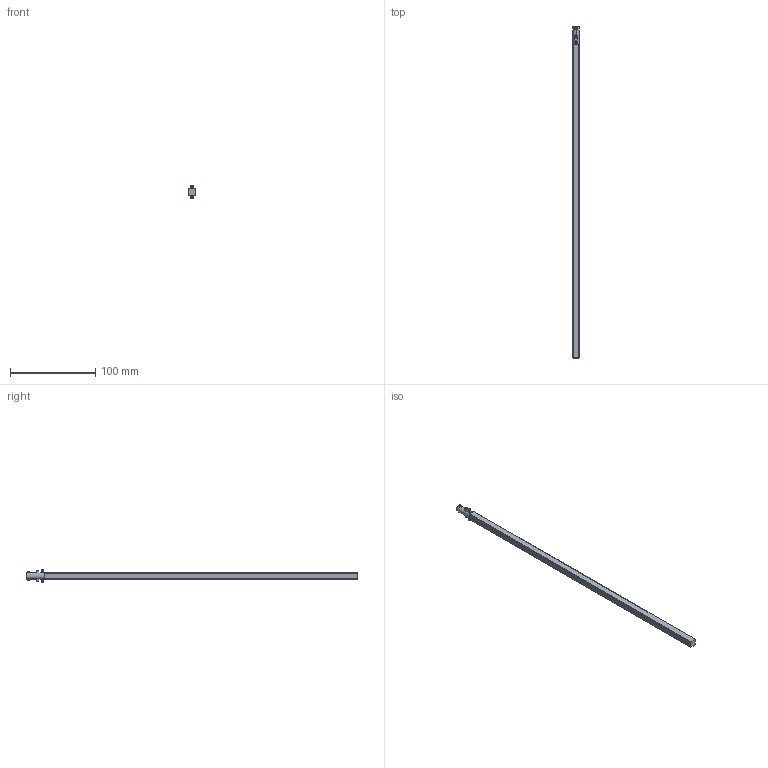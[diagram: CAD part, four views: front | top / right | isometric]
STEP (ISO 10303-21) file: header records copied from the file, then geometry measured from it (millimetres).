
FILE_DESCRIPTION (( 'STEP AP214' ), '1' );
FILE_NAME ('Ðóêîÿòêà ïîâîðîòíàÿ âûíîñíàÿ OptiMat E ÃÆÈÊ.301142.138.STEP', '2016-06-10T07:15:53', ( 'ugk-47' ), ( '' ), 'SwSTEP 2.0', 'SolidWorks 2012', '' );
FILE_SCHEMA (( 'AUTOMOTIVE_DESIGN' ));
Length unit declared in the file: millimetre
Products named in the file (6): 羊屦驽睃 闷仁.741131.064_戔ムΕ 儐垔.741131.064; Øòèôò ÃÆÈÊ.715111.064_˜â¨äâ ƒ†ˆŠ.715111.064; Âàë ÃÆÈÊ.303739.005_‚ « ƒ†ˆŠ.303739.005; Øòèôòû öèëèíäðè÷åñêèå ïðóæèííûå ñ ïðîðåçüþ ÃÎÑÒ 14229-93_˜â¨äâ €.2,5å10.60‘2  ƒŽ‘’ 14229-93; Øòèôòû öèëèíäðè÷åñêèå ïðóæèííûå ñ ïðîðåçüþ ÃÎÑÒ 14229-93_˜â¨äâ €.2,5å16.60‘2  ƒŽ‘’ 14229-93; Ðóêîÿòêà ïîâîðîòíàÿ âûíîñíàÿ OptiMat E ÃÆÈÊ.301142.138
Assembly tree (5 placements, depth 3):
  Ðóêîÿòêà ïîâîðîòíàÿ âûíîñíàÿ OptiMat E ÃÆÈÊ.301142.138
    Âàë ÃÆÈÊ.303739.005_‚ « ƒ†ˆŠ.303739.005
      羊屦驽睃 闷仁.741131.064_戔ムΕ 儐垔.741131.064
      Øòèôò ÃÆÈÊ.715111.064_˜â¨äâ ƒ†ˆŠ.715111.064
      Øòèôòû öèëèíäðè÷åñêèå ïðóæèííûå ñ ïðîðåçüþ ÃÎÑÒ 14229-93_˜â¨äâ €.2,5å10.60‘2  ƒŽ‘’ 14229-93
      Øòèôòû öèëèíäðè÷åñêèå ïðóæèííûå ñ ïðîðåçüþ ÃÎÑÒ 14229-93_˜â¨äâ €.2,5å16.60‘2  ƒŽ‘’ 14229-93
Bounding box: 8 x 390 x 16 mm (x, y, z)
Volume: 24438.8 mm3; surface area: 12720.2 mm2
Topology: 4 solids, 4 shells, 67 faces, 160 edges, 96 vertices
Faces by surface type: cylinder 26, cone 20, plane 17, bspline 4
Entity records: 2680 total; most frequent: CARTESIAN_POINT 910, DIRECTION 344, ORIENTED_EDGE 320, EDGE_CURVE 160, AXIS2_PLACEMENT_3D 132, VERTEX_POINT 96, LINE 80, VECTOR 80
